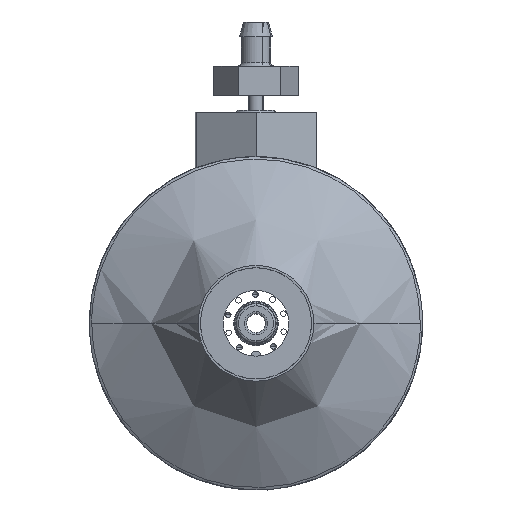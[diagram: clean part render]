
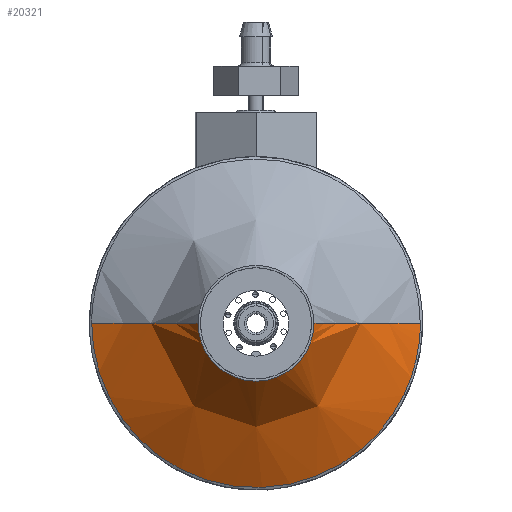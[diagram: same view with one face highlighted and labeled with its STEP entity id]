
A CAD part, front view. The second image highlights one B-rep face of the part: STEP entity #20321.
In plain terms, the highlighted free-form (B-spline) face has degree [2, 3] with [3, 4] control points.
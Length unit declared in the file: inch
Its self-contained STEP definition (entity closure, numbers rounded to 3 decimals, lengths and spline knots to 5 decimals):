
#1443 = CARTESIAN_POINT ( 'NONE',  ( 0., -0.69882, 0. ) ) ;
#2504 = CARTESIAN_POINT ( 'NONE',  ( 0.24606, -0.69882, 0. ) ) ;
#2793 = CARTESIAN_POINT ( 'NONE',  ( -0.24606, -0.69882, 0. ) ) ;
#6292 =( BOUNDED_CURVE ( )  B_SPLINE_CURVE ( 3, ( #39271, #56947, #16591, #12528 ),
 .UNSPECIFIED., .F., .T. ) 
 B_SPLINE_CURVE_WITH_KNOTS ( ( 4, 4 ),
 ( 0., 0.5 ),
 .UNSPECIFIED. ) 
 CURVE ( )  GEOMETRIC_REPRESENTATION_ITEM ( )  RATIONAL_B_SPLINE_CURVE ( ( 1., 0.333, 0.333, 1. ) ) 
 REPRESENTATION_ITEM ( '' )  );
#6658 = VERTEX_POINT ( 'NONE', #42899 ) ;
#7133 = CARTESIAN_POINT ( 'NONE',  ( 0.69848, -0.31874, 0. ) ) ;
#7904 = CARTESIAN_POINT ( 'NONE',  ( -0.69848, -0.31874, 0. ) ) ;
#9868 = VERTEX_POINT ( 'NONE', #29353 ) ;
#9963 = AXIS2_PLACEMENT_3D ( 'NONE', #1443, #49633, #18873 ) ;
#10400 = ORIENTED_EDGE ( 'NONE', *, *, #41741, .T. ) ;
#10902 = CARTESIAN_POINT ( 'NONE',  ( 0.40839, -0.4284, -0.81678 ) ) ;
#11380 = CARTESIAN_POINT ( 'NONE',  ( -0.40839, -0.4284, 0. ) ) ;
#12528 = CARTESIAN_POINT ( 'NONE',  ( 0.69848, -0.31874, 0. ) ) ;
#16023 = CARTESIAN_POINT ( 'NONE',  ( -0.24606, -0.69882, 0. ) ) ;
#16591 = CARTESIAN_POINT ( 'NONE',  ( 0.69848, -0.31874, -1.39696 ) ) ;
#18191 = EDGE_CURVE ( 'NONE', #20536, #9868, #26534, .T. ) ;
#18873 = DIRECTION ( 'NONE',  ( -1., 0., 0. ) ) ;
#20321 = ADVANCED_FACE ( 'NONE', ( #34154 ), #40764, .T. ) ;
#20536 = VERTEX_POINT ( 'NONE', #56169 ) ;
#20824 = CARTESIAN_POINT ( 'NONE',  ( -0.69848, -0.31874, 0. ) ) ;
#24573 = CARTESIAN_POINT ( 'NONE',  ( 0.69848, -0.31874, -1.39696 ) ) ;
#24834 = EDGE_CURVE ( 'NONE', #20536, #46439, #6292, .T. ) ;
#25164 = CARTESIAN_POINT ( 'NONE',  ( -0.40839, -0.4284, 0. ) ) ;
#25695 = CARTESIAN_POINT ( 'NONE',  ( 0.69848, -0.31874, 0. ) ) ;
#26534 = B_SPLINE_CURVE_WITH_KNOTS ( 'NONE', 2,
 ( #7904, #11380, #16023 ),
 .UNSPECIFIED., .F., .F.,
 ( 3, 3 ),
 ( 0.01718, 1. ),
 .UNSPECIFIED. ) ;
#28639 = CARTESIAN_POINT ( 'NONE',  ( -0.40839, -0.4284, -0.81678 ) ) ;
#29353 = CARTESIAN_POINT ( 'NONE',  ( -0.24606, -0.69882, 0. ) ) ;
#33936 = ORIENTED_EDGE ( 'NONE', *, *, #57008, .T. ) ;
#34154 = FACE_OUTER_BOUND ( 'NONE', #41567, .T. ) ;
#35017 = CIRCLE ( 'NONE', #9963, 0.24606 ) ;
#36107 = B_SPLINE_CURVE_WITH_KNOTS ( 'NONE', 2,
 ( #25695, #37895, #51242 ),
 .UNSPECIFIED., .F., .F.,
 ( 3, 3 ),
 ( 0.01718, 1. ),
 .UNSPECIFIED. ) ;
#37895 = CARTESIAN_POINT ( 'NONE',  ( 0.40839, -0.4284, 0. ) ) ;
#39271 = CARTESIAN_POINT ( 'NONE',  ( -0.69848, -0.31874, 0. ) ) ;
#40764 =( BOUNDED_SURFACE ( )  B_SPLINE_SURFACE ( 2, 3, ( 
 ( #7133, #24573, #42875, #20824 ),
 ( #55082, #10902, #28639, #25164 ),
 ( #2504, #55648, #43173, #2793 ) ),
 .UNSPECIFIED., .F., .F., .F. ) 
 B_SPLINE_SURFACE_WITH_KNOTS ( ( 3, 3 ),
 ( 4, 4 ),
 ( 0.01718, 1. ),
 ( 0., 1. ),
 .UNSPECIFIED. ) 
 GEOMETRIC_REPRESENTATION_ITEM ( )  RATIONAL_B_SPLINE_SURFACE ( (
 ( 1., 0.333, 0.333, 1.),
 ( 1., 0.333, 0.333, 1.),
 ( 1., 0.333, 0.333, 1.) ) ) 
 REPRESENTATION_ITEM ( '' )  SURFACE ( )  );
#41567 = EDGE_LOOP ( 'NONE', ( #48882, #10400, #33936, #56041 ) ) ;
#41741 = EDGE_CURVE ( 'NONE', #46439, #6658, #36107, .T. ) ;
#42875 = CARTESIAN_POINT ( 'NONE',  ( -0.69848, -0.31874, -1.39696 ) ) ;
#42899 = CARTESIAN_POINT ( 'NONE',  ( 0.24606, -0.69882, 0. ) ) ;
#43173 = CARTESIAN_POINT ( 'NONE',  ( -0.24606, -0.69882, -0.49213 ) ) ;
#46439 = VERTEX_POINT ( 'NONE', #52094 ) ;
#48882 = ORIENTED_EDGE ( 'NONE', *, *, #24834, .T. ) ;
#49633 = DIRECTION ( 'NONE',  ( 0., 1., 0. ) ) ;
#51242 = CARTESIAN_POINT ( 'NONE',  ( 0.24606, -0.69882, 0. ) ) ;
#52094 = CARTESIAN_POINT ( 'NONE',  ( 0.69848, -0.31874, 0. ) ) ;
#55082 = CARTESIAN_POINT ( 'NONE',  ( 0.40839, -0.4284, 0. ) ) ;
#55648 = CARTESIAN_POINT ( 'NONE',  ( 0.24606, -0.69882, -0.49213 ) ) ;
#56041 = ORIENTED_EDGE ( 'NONE', *, *, #18191, .F. ) ;
#56169 = CARTESIAN_POINT ( 'NONE',  ( -0.69848, -0.31874, 0. ) ) ;
#56947 = CARTESIAN_POINT ( 'NONE',  ( -0.69848, -0.31874, -1.39696 ) ) ;
#57008 = EDGE_CURVE ( 'NONE', #6658, #9868, #35017, .T. ) ;
